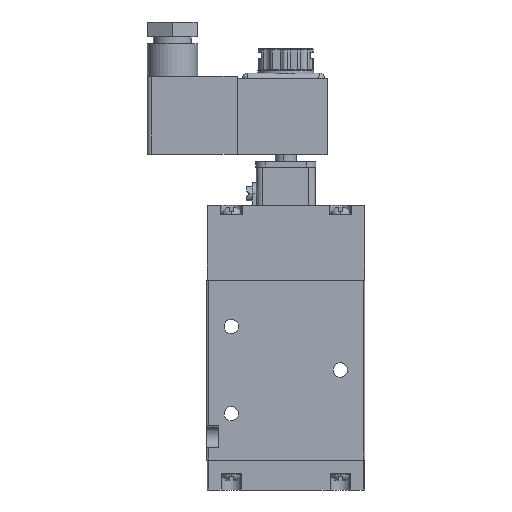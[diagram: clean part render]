
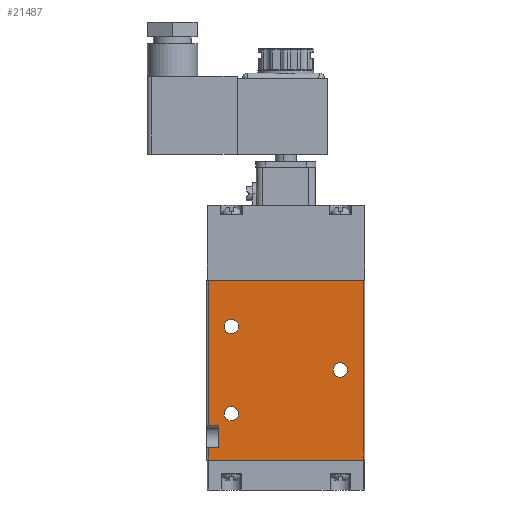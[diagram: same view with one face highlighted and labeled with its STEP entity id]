
A CAD part, left-side view. The second image highlights one B-rep face of the part: STEP entity #21487.
In plain terms, the highlighted planar face has unit normal (-1, 0, 0) as drawn and (0, 0, -1) by its records, which use the part's own axes.
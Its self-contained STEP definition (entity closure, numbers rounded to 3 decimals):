
#142 = CARTESIAN_POINT ( 'NONE',  ( -61.5, -28.5, -17. ) ) ;
#186 = CIRCLE ( 'NONE', #14340, 2.65 ) ;
#235 = AXIS2_PLACEMENT_3D ( 'NONE', #18652, #6067, #16564 ) ;
#269 = EDGE_CURVE ( 'NONE', #13598, #15902, #2244, .T. ) ;
#329 = ORIENTED_EDGE ( 'NONE', *, *, #8926, .F. ) ;
#411 = ORIENTED_EDGE ( 'NONE', *, *, #13105, .T. ) ;
#545 = CIRCLE ( 'NONE', #18402, 2.65 ) ;
#555 = AXIS2_PLACEMENT_3D ( 'NONE', #12936, #7576, #9323 ) ;
#801 = VERTEX_POINT ( 'NONE', #13854 ) ;
#882 = DIRECTION ( 'NONE',  ( 1., 0., 0. ) ) ;
#1143 = VECTOR ( 'NONE', #14902, 1000. ) ;
#1394 = EDGE_LOOP ( 'NONE', ( #7723, #22298, #9087, #13917, #329, #9515, #11851, #2699 ) ) ;
#1551 = VERTEX_POINT ( 'NONE', #142 ) ;
#2244 = LINE ( 'NONE', #9687, #4717 ) ;
#2628 = CIRCLE ( 'NONE', #14532, 2.65 ) ;
#2699 = ORIENTED_EDGE ( 'NONE', *, *, #269, .F. ) ;
#2791 = EDGE_CURVE ( 'NONE', #6267, #8548, #20313, .T. ) ;
#2978 = DIRECTION ( 'NONE',  ( -1., 0., 0. ) ) ;
#3400 = LINE ( 'NONE', #17949, #20254 ) ;
#3431 = CARTESIAN_POINT ( 'NONE',  ( -66., 28.5, -17. ) ) ;
#3497 = CARTESIAN_POINT ( 'NONE',  ( 0., 28.5, -17. ) ) ;
#3792 = VERTEX_POINT ( 'NONE', #12613 ) ;
#4082 = LINE ( 'NONE', #11186, #20469 ) ;
#4117 = CARTESIAN_POINT ( 'NONE',  ( -14.35, -20., -17. ) ) ;
#4302 = VECTOR ( 'NONE', #7354, 1000. ) ;
#4387 = DIRECTION ( 'NONE',  ( 0., 0., 1. ) ) ;
#4499 = DIRECTION ( 'NONE',  ( 1., 0., 0. ) ) ;
#4574 = DIRECTION ( 'NONE',  ( 0., 1., 0. ) ) ;
#4696 = LINE ( 'NONE', #15542, #22959 ) ;
#4717 = VECTOR ( 'NONE', #15072, 1000. ) ;
#4815 = CARTESIAN_POINT ( 'NONE',  ( -30.35, 20., -17. ) ) ;
#5043 = DIRECTION ( 'NONE',  ( 0., 0., 1. ) ) ;
#5305 = VECTOR ( 'NONE', #2978, 1000. ) ;
#5389 = DIRECTION ( 'NONE',  ( 1., 0., 0. ) ) ;
#5451 = EDGE_CURVE ( 'NONE', #8548, #6267, #186, .T. ) ;
#5999 = CARTESIAN_POINT ( 'NONE',  ( -17., -20., -17. ) ) ;
#6067 = DIRECTION ( 'NONE',  ( 0., 0., 1. ) ) ;
#6267 = VERTEX_POINT ( 'NONE', #4117 ) ;
#6600 = DIRECTION ( 'NONE',  ( -1., 0., 0. ) ) ;
#6628 = VERTEX_POINT ( 'NONE', #18378 ) ;
#7025 = EDGE_CURVE ( 'NONE', #6628, #10336, #4696, .T. ) ;
#7354 = DIRECTION ( 'NONE',  ( 1., 0., 0. ) ) ;
#7576 = DIRECTION ( 'NONE',  ( 0., 0., 1. ) ) ;
#7723 = ORIENTED_EDGE ( 'NONE', *, *, #11700, .T. ) ;
#7752 = LINE ( 'NONE', #16837, #5305 ) ;
#8125 = EDGE_CURVE ( 'NONE', #10680, #14621, #12731, .T. ) ;
#8147 = EDGE_LOOP ( 'NONE', ( #411, #17283 ) ) ;
#8180 = EDGE_CURVE ( 'NONE', #1551, #6628, #7752, .T. ) ;
#8548 = VERTEX_POINT ( 'NONE', #14613 ) ;
#8689 = LINE ( 'NONE', #11951, #9042 ) ;
#8926 = EDGE_CURVE ( 'NONE', #801, #21007, #14794, .T. ) ;
#9042 = VECTOR ( 'NONE', #6600, 1000. ) ;
#9087 = ORIENTED_EDGE ( 'NONE', *, *, #7025, .T. ) ;
#9277 = FACE_BOUND ( 'NONE', #11218, .T. ) ;
#9323 = DIRECTION ( 'NONE',  ( 1., 0., 0. ) ) ;
#9515 = ORIENTED_EDGE ( 'NONE', *, *, #15564, .T. ) ;
#9687 = CARTESIAN_POINT ( 'NONE',  ( -53.5, -24.7, -17. ) ) ;
#9726 = DIRECTION ( 'NONE',  ( 0., 0., 1. ) ) ;
#10336 = VERTEX_POINT ( 'NONE', #3431 ) ;
#10508 = DIRECTION ( 'NONE',  ( 0., -1., 0. ) ) ;
#10680 = VERTEX_POINT ( 'NONE', #4815 ) ;
#10729 = LINE ( 'NONE', #12246, #4302 ) ;
#10805 = DIRECTION ( 'NONE',  ( 0., 0., -1. ) ) ;
#11186 = CARTESIAN_POINT ( 'NONE',  ( -61.5, -24.7, -17. ) ) ;
#11218 = EDGE_LOOP ( 'NONE', ( #22175, #17578 ) ) ;
#11700 = EDGE_CURVE ( 'NONE', #13598, #1551, #4082, .T. ) ;
#11851 = ORIENTED_EDGE ( 'NONE', *, *, #18165, .F. ) ;
#11951 = CARTESIAN_POINT ( 'NONE',  ( -66., -28.5, -17. ) ) ;
#12246 = CARTESIAN_POINT ( 'NONE',  ( -66., 28.5, -17. ) ) ;
#12442 = EDGE_CURVE ( 'NONE', #10336, #21007, #10729, .T. ) ;
#12613 = CARTESIAN_POINT ( 'NONE',  ( -53.5, -28.5, -17. ) ) ;
#12731 = CIRCLE ( 'NONE', #13112, 2.65 ) ;
#12770 = DIRECTION ( 'NONE',  ( -1., 0., 0. ) ) ;
#12936 = CARTESIAN_POINT ( 'NONE',  ( -33., 20., -17. ) ) ;
#13079 = AXIS2_PLACEMENT_3D ( 'NONE', #18412, #10805, #12770 ) ;
#13105 = EDGE_CURVE ( 'NONE', #16831, #18802, #545, .T. ) ;
#13112 = AXIS2_PLACEMENT_3D ( 'NONE', #14987, #9726, #882 ) ;
#13193 = EDGE_LOOP ( 'NONE', ( #14382, #18600 ) ) ;
#13347 = DIRECTION ( 'NONE',  ( 1., 0., 0. ) ) ;
#13598 = VERTEX_POINT ( 'NONE', #18088 ) ;
#13854 = CARTESIAN_POINT ( 'NONE',  ( 0., -28.5, -17. ) ) ;
#13917 = ORIENTED_EDGE ( 'NONE', *, *, #12442, .T. ) ;
#14308 = FACE_BOUND ( 'NONE', #13193, .T. ) ;
#14340 = AXIS2_PLACEMENT_3D ( 'NONE', #5999, #20699, #13347 ) ;
#14382 = ORIENTED_EDGE ( 'NONE', *, *, #8125, .T. ) ;
#14532 = AXIS2_PLACEMENT_3D ( 'NONE', #19373, #5043, #5389 ) ;
#14613 = CARTESIAN_POINT ( 'NONE',  ( -19.65, -20., -17. ) ) ;
#14621 = VERTEX_POINT ( 'NONE', #18540 ) ;
#14794 = LINE ( 'NONE', #16320, #1143 ) ;
#14902 = DIRECTION ( 'NONE',  ( 0., 1., 0. ) ) ;
#14987 = CARTESIAN_POINT ( 'NONE',  ( -33., 20., -17. ) ) ;
#15072 = DIRECTION ( 'NONE',  ( 1., 0., 0. ) ) ;
#15242 = CARTESIAN_POINT ( 'NONE',  ( -51.65, -20., -17. ) ) ;
#15409 = CARTESIAN_POINT ( 'NONE',  ( -53.5, -24.7, -17. ) ) ;
#15542 = CARTESIAN_POINT ( 'NONE',  ( -66., -29., -17. ) ) ;
#15564 = EDGE_CURVE ( 'NONE', #801, #3792, #8689, .T. ) ;
#15902 = VERTEX_POINT ( 'NONE', #15409 ) ;
#16320 = CARTESIAN_POINT ( 'NONE',  ( 0., -29., -17. ) ) ;
#16564 = DIRECTION ( 'NONE',  ( 1., 0., 0. ) ) ;
#16831 = VERTEX_POINT ( 'NONE', #19971 ) ;
#16837 = CARTESIAN_POINT ( 'NONE',  ( -66., -28.5, -17. ) ) ;
#17283 = ORIENTED_EDGE ( 'NONE', *, *, #20585, .T. ) ;
#17578 = ORIENTED_EDGE ( 'NONE', *, *, #5451, .T. ) ;
#17949 = CARTESIAN_POINT ( 'NONE',  ( -53.5, -24.7, -17. ) ) ;
#18028 = FACE_BOUND ( 'NONE', #8147, .T. ) ;
#18088 = CARTESIAN_POINT ( 'NONE',  ( -61.5, -24.7, -17. ) ) ;
#18165 = EDGE_CURVE ( 'NONE', #15902, #3792, #3400, .T. ) ;
#18239 = EDGE_CURVE ( 'NONE', #14621, #10680, #22519, .T. ) ;
#18245 = FACE_OUTER_BOUND ( 'NONE', #1394, .T. ) ;
#18378 = CARTESIAN_POINT ( 'NONE',  ( -66., -28.5, -17. ) ) ;
#18402 = AXIS2_PLACEMENT_3D ( 'NONE', #18601, #4387, #4499 ) ;
#18408 = DIRECTION ( 'NONE',  ( 0., -1., 0. ) ) ;
#18412 = CARTESIAN_POINT ( 'NONE',  ( -66., -29., -17. ) ) ;
#18540 = CARTESIAN_POINT ( 'NONE',  ( -35.65, 20., -17. ) ) ;
#18600 = ORIENTED_EDGE ( 'NONE', *, *, #18239, .T. ) ;
#18601 = CARTESIAN_POINT ( 'NONE',  ( -49., -20., -17. ) ) ;
#18652 = CARTESIAN_POINT ( 'NONE',  ( -17., -20., -17. ) ) ;
#18802 = VERTEX_POINT ( 'NONE', #15242 ) ;
#19373 = CARTESIAN_POINT ( 'NONE',  ( -49., -20., -17. ) ) ;
#19896 = PLANE ( 'NONE',  #13079 ) ;
#19971 = CARTESIAN_POINT ( 'NONE',  ( -46.35, -20., -17. ) ) ;
#20254 = VECTOR ( 'NONE', #10508, 1000. ) ;
#20313 = CIRCLE ( 'NONE', #235, 2.65 ) ;
#20469 = VECTOR ( 'NONE', #18408, 1000. ) ;
#20585 = EDGE_CURVE ( 'NONE', #18802, #16831, #2628, .T. ) ;
#20699 = DIRECTION ( 'NONE',  ( 0., 0., 1. ) ) ;
#21007 = VERTEX_POINT ( 'NONE', #3497 ) ;
#21487 = ADVANCED_FACE ( 'NONE', ( #14308, #9277, #18028, #18245 ), #19896, .T. ) ;
#22175 = ORIENTED_EDGE ( 'NONE', *, *, #2791, .T. ) ;
#22298 = ORIENTED_EDGE ( 'NONE', *, *, #8180, .T. ) ;
#22519 = CIRCLE ( 'NONE', #555, 2.65 ) ;
#22959 = VECTOR ( 'NONE', #4574, 1000. ) ;
